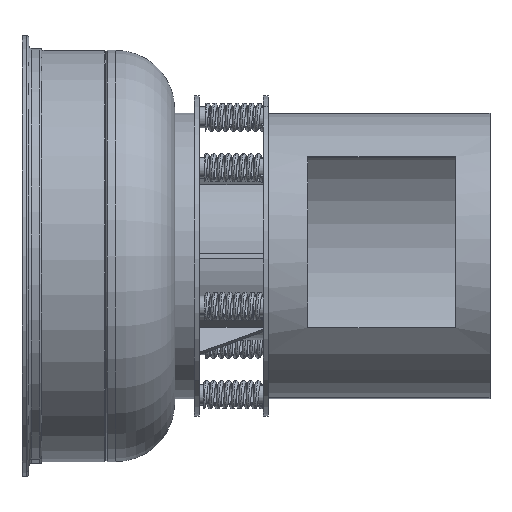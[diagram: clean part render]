
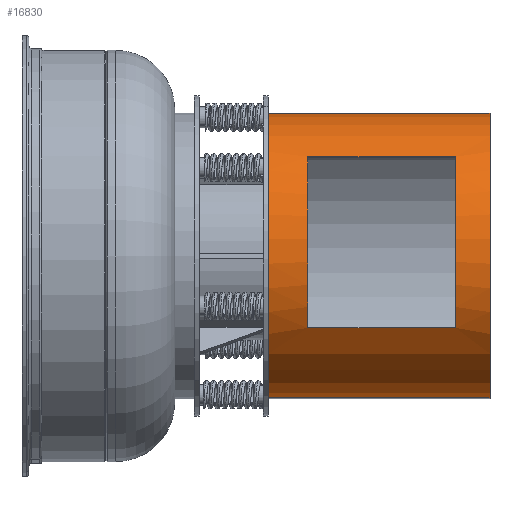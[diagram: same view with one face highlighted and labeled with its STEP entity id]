
A CAD part, left-side view. The second image highlights one B-rep face of the part: STEP entity #16830.
In plain terms, the highlighted cylindrical face has radius 290 mm (diameter 580 mm), a partial arc.
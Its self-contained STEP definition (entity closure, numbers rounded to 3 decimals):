
#17 = EDGE_CURVE ( 'NONE', #3042, #15148, #10176, .T. ) ;
#1049 = ORIENTED_EDGE ( 'NONE', *, *, #19155, .T. ) ;
#1341 = VERTEX_POINT ( 'NONE', #2374 ) ;
#1366 = LINE ( 'NONE', #31339, #28956 ) ;
#1957 = AXIS2_PLACEMENT_3D ( 'NONE', #25872, #22470, #19072 ) ;
#2329 = AXIS2_PLACEMENT_3D ( 'NONE', #29675, #3111, #28864 ) ;
#2374 = CARTESIAN_POINT ( 'NONE',  ( -250.609, -590., -145.929 ) ) ;
#3042 = VERTEX_POINT ( 'NONE', #17153 ) ;
#3111 = DIRECTION ( 'NONE',  ( 0., 1., 0. ) ) ;
#3598 = DIRECTION ( 'NONE',  ( 0., -1., 0. ) ) ;
#3837 = DIRECTION ( 'NONE',  ( -0.12, 0., -0.993 ) ) ;
#4758 = VECTOR ( 'NONE', #5900, 1000. ) ;
#5879 = CIRCLE ( 'NONE', #20606, 290. ) ;
#5900 = DIRECTION ( 'NONE',  ( 0., -1., 0. ) ) ;
#6474 = EDGE_CURVE ( 'NONE', #16865, #24755, #6716, .T. ) ;
#6716 = LINE ( 'NONE', #29836, #4758 ) ;
#7028 = CARTESIAN_POINT ( 'NONE',  ( -208.53, -210., 201.532 ) ) ;
#7262 = DIRECTION ( 'NONE',  ( 0., -1., 0. ) ) ;
#10176 = CIRCLE ( 'NONE', #2329, 290. ) ;
#10444 = LINE ( 'NONE', #7028, #26943 ) ;
#10685 = CARTESIAN_POINT ( 'NONE',  ( 0., -210., 0. ) ) ;
#11465 = ORIENTED_EDGE ( 'NONE', *, *, #30809, .T. ) ;
#11518 = EDGE_CURVE ( 'NONE', #24638, #24755, #21168, .T. ) ;
#12019 = DIRECTION ( 'NONE',  ( 0.12, 0., 0.993 ) ) ;
#12135 = ORIENTED_EDGE ( 'NONE', *, *, #6474, .F. ) ;
#12544 = EDGE_CURVE ( 'NONE', #30059, #16865, #5879, .T. ) ;
#12578 = FACE_BOUND ( 'NONE', #19203, .T. ) ;
#12610 = AXIS2_PLACEMENT_3D ( 'NONE', #18887, #15462, #12019 ) ;
#13313 = CARTESIAN_POINT ( 'NONE',  ( 34.865, -210., 287.897 ) ) ;
#14015 = CARTESIAN_POINT ( 'NONE',  ( -34.865, -660., -287.897 ) ) ;
#14951 = ORIENTED_EDGE ( 'NONE', *, *, #28748, .T. ) ;
#15148 = VERTEX_POINT ( 'NONE', #30182 ) ;
#15227 = VECTOR ( 'NONE', #22798, 1000. ) ;
#15462 = DIRECTION ( 'NONE',  ( 0., 1., 0. ) ) ;
#16830 = ADVANCED_FACE ( 'NONE', ( #18632, #12578 ), #21200, .T. ) ;
#16865 = VERTEX_POINT ( 'NONE', #13313 ) ;
#17153 = CARTESIAN_POINT ( 'NONE',  ( -250.609, -290., -145.929 ) ) ;
#17574 = ORIENTED_EDGE ( 'NONE', *, *, #17, .T. ) ;
#18632 = FACE_OUTER_BOUND ( 'NONE', #26457, .T. ) ;
#18887 = CARTESIAN_POINT ( 'NONE',  ( 0., -660., 0. ) ) ;
#19072 = DIRECTION ( 'NONE',  ( -0.12, 0., -0.993 ) ) ;
#19155 = EDGE_CURVE ( 'NONE', #30059, #24638, #1366, .T. ) ;
#19203 = EDGE_LOOP ( 'NONE', ( #17574, #14951, #11465, #28896 ) ) ;
#20360 = AXIS2_PLACEMENT_3D ( 'NONE', #10685, #7262, #3837 ) ;
#20606 = AXIS2_PLACEMENT_3D ( 'NONE', #29462, #26051, #22636 ) ;
#20859 = VERTEX_POINT ( 'NONE', #30857 ) ;
#21168 = CIRCLE ( 'NONE', #12610, 290. ) ;
#21200 = CYLINDRICAL_SURFACE ( 'NONE', #20360, 290. ) ;
#21321 = EDGE_CURVE ( 'NONE', #1341, #3042, #29619, .T. ) ;
#22470 = DIRECTION ( 'NONE',  ( 0., -1., 0. ) ) ;
#22636 = DIRECTION ( 'NONE',  ( 0.12, 0., 0.993 ) ) ;
#22798 = DIRECTION ( 'NONE',  ( 0., 1., 0. ) ) ;
#24638 = VERTEX_POINT ( 'NONE', #14015 ) ;
#24755 = VERTEX_POINT ( 'NONE', #26074 ) ;
#25872 = CARTESIAN_POINT ( 'NONE',  ( 0., -590., 0. ) ) ;
#26051 = DIRECTION ( 'NONE',  ( 0., 1., 0. ) ) ;
#26074 = CARTESIAN_POINT ( 'NONE',  ( 34.865, -660., 287.897 ) ) ;
#26210 = CARTESIAN_POINT ( 'NONE',  ( -250.609, -210., -145.929 ) ) ;
#26457 = EDGE_LOOP ( 'NONE', ( #12135, #32732, #1049, #32362 ) ) ;
#26943 = VECTOR ( 'NONE', #3598, 1000. ) ;
#27934 = DIRECTION ( 'NONE',  ( 0., -1., 0. ) ) ;
#28094 = CARTESIAN_POINT ( 'NONE',  ( -34.865, -210., -287.897 ) ) ;
#28748 = EDGE_CURVE ( 'NONE', #15148, #20859, #10444, .T. ) ;
#28864 = DIRECTION ( 'NONE',  ( 0.12, 0., 0.993 ) ) ;
#28896 = ORIENTED_EDGE ( 'NONE', *, *, #21321, .T. ) ;
#28956 = VECTOR ( 'NONE', #27934, 1000. ) ;
#29462 = CARTESIAN_POINT ( 'NONE',  ( 0., -210., 0. ) ) ;
#29619 = LINE ( 'NONE', #26210, #15227 ) ;
#29675 = CARTESIAN_POINT ( 'NONE',  ( 0., -290., 0. ) ) ;
#29836 = CARTESIAN_POINT ( 'NONE',  ( 34.865, -210., 287.897 ) ) ;
#30059 = VERTEX_POINT ( 'NONE', #28094 ) ;
#30182 = CARTESIAN_POINT ( 'NONE',  ( -208.53, -290., 201.532 ) ) ;
#30809 = EDGE_CURVE ( 'NONE', #20859, #1341, #32573, .T. ) ;
#30857 = CARTESIAN_POINT ( 'NONE',  ( -208.53, -590., 201.532 ) ) ;
#31339 = CARTESIAN_POINT ( 'NONE',  ( -34.865, -210., -287.897 ) ) ;
#32362 = ORIENTED_EDGE ( 'NONE', *, *, #11518, .T. ) ;
#32573 = CIRCLE ( 'NONE', #1957, 290. ) ;
#32732 = ORIENTED_EDGE ( 'NONE', *, *, #12544, .F. ) ;
